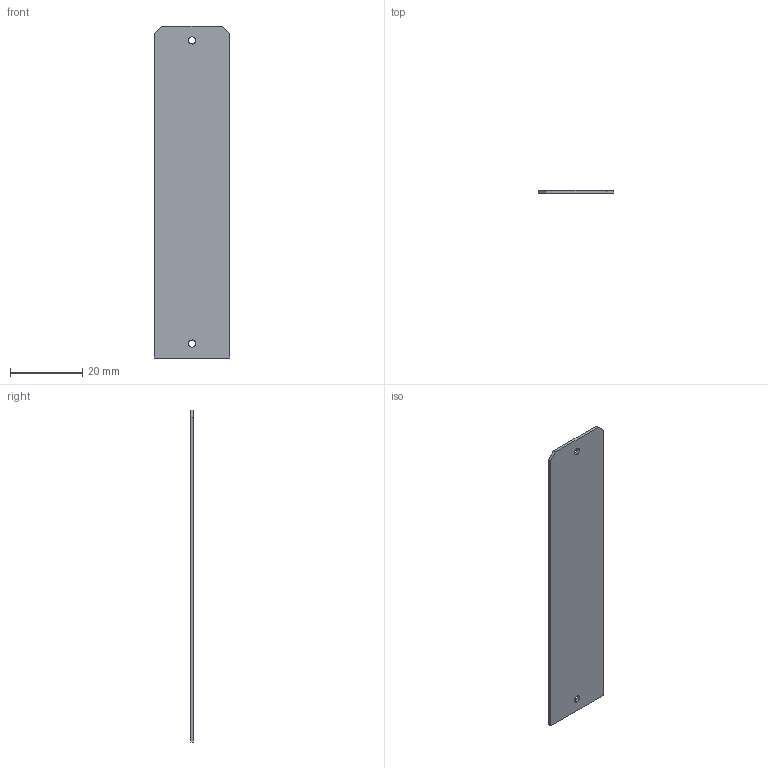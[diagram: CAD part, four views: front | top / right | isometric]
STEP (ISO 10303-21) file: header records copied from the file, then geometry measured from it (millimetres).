
FILE_DESCRIPTION (( 'STEP AP214' ), '1' );
FILE_NAME ('HLBRX-00-080-3-POLARIZER-V.STEP', '2021-11-05T07:32:44', ( '' ), ( '' ), 'SwSTEP 2.0', 'SolidWorks 2021', '' );
FILE_SCHEMA (( 'AUTOMOTIVE_DESIGN' ));
Length unit declared in the file: millimetre
Products named in the file (1): HLBRX-00-080-3-POLARIZER-V
Bounding box: 20.8 x 0.8 x 92 mm (x, y, z)
Volume: 1522.7 mm3; surface area: 3995.3 mm2
Topology: 1 solids, 1 shells, 12 faces, 30 edges, 20 vertices
Faces by surface type: plane 8, cylinder 4
Entity records: 404 total; most frequent: DIRECTION 64, CARTESIAN_POINT 63, ORIENTED_EDGE 60, EDGE_CURVE 30, LINE 22, VECTOR 22, AXIS2_PLACEMENT_3D 21, VERTEX_POINT 20
